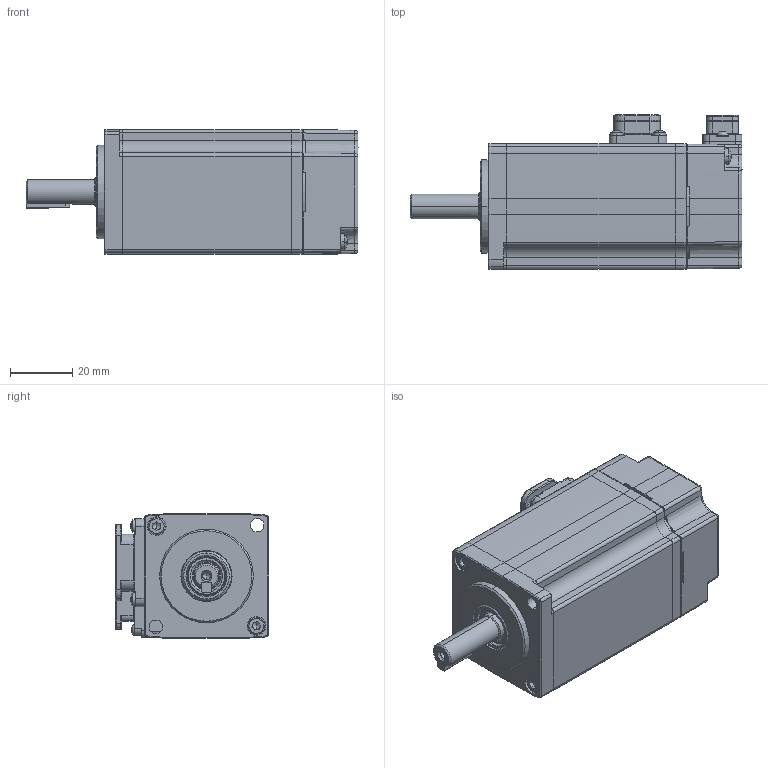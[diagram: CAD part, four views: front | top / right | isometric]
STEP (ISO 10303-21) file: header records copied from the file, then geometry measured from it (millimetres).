
FILE_DESCRIPTION (( 'STEP AP214' ), '1' );
FILE_NAME ('UMM-0001BA-B5.STEP', '2024-08-20T09:40:32', ( '' ), ( '' ), 'SwSTEP 2.0', 'SolidWorks 2022', '' );
FILE_SCHEMA (( 'AUTOMOTIVE_DESIGN' ));
Length unit declared in the file: millimetre
Products named in the file (1): UMM-0001BA-B5
Bounding box: 106.4 x 49.3 x 40 mm (x, y, z)
Volume: 129333 mm3; surface area: 44182.3 mm2
Topology: 8 solids, 20 shells, 2080 faces, 5473 edges, 3485 vertices
Faces by surface type: plane 1095, cylinder 612, cone 198, bspline 171, torus 4
Entity records: 83997 total; most frequent: CARTESIAN_POINT 26589, ORIENTED_EDGE 10854, DIRECTION 10065, EDGE_CURVE 5427, VERTEX_POINT 3483, AXIS2_PLACEMENT_3D 3387, VECTOR 3291, LINE 3291
